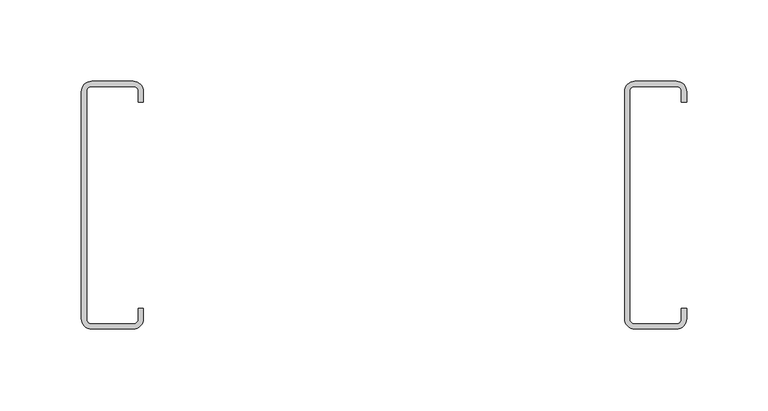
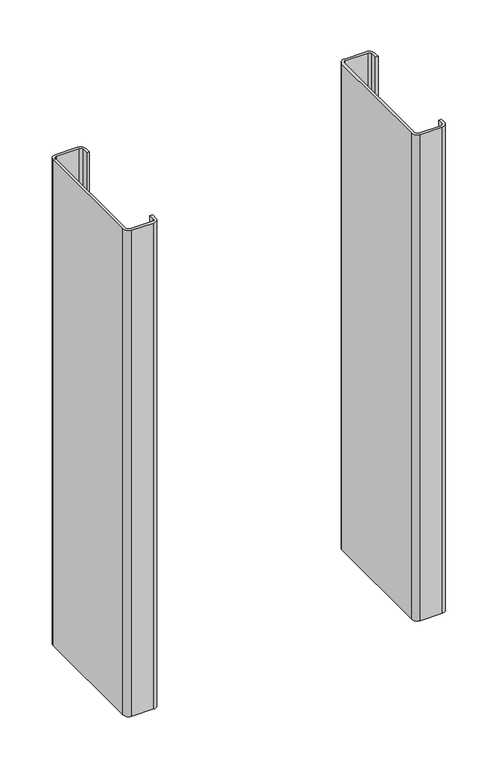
"""IFC4 building model written with IfcOpenShell, lengths in millimetres: proxy geometry, CRAi Generic Model Metal Stud Array : CRAi Generic Model Metal Stud Array."""

from ifc_helpers import new_model, si_unit, point, frame_2d, origin, origin_with_axes, place, context, project, spatial, polyline, circle_curve, trimmed, segment, composite_curve, outline, extrude, source, transform, mapped, element, save


def generic_models_61840a3c(model_context):
    return source(origin(), model_context, "Body", "SweptSolid", [
        extrude(outline(composite_curve([segment(polyline([(185.9044796, 63.5), (182.7294796, 63.5), (182.7294796, 70.2679713)]), True, "CONTINUOUS"), segment(trimmed(circle_curve(frame_2d((179.5544796, 69.85)), 3.2023936), [point((182.7294796, 70.2679713))], [point((179.9724509, 73.025))], True, "CARTESIAN"), True, "CONTINUOUS"), segment(polyline([(179.9724509, 73.025), (153.7365083, 73.025)]), True, "CONTINUOUS"), segment(trimmed(circle_curve(frame_2d((154.1544796, 69.85)), 3.2023936), [point((153.7365083, 73.025))], [point((150.9794796, 70.2679713))], True, "CARTESIAN"), True, "CONTINUOUS"), segment(polyline([(150.9794796, 70.2679713), (150.9794796, -70.2679713)]), True, "CONTINUOUS"), segment(trimmed(circle_curve(frame_2d((154.1544796, -69.85)), 3.2023936), [point((150.9794796, -70.2679713))], [point((153.7365083, -73.025))], True, "CARTESIAN"), True, "CONTINUOUS"), segment(polyline([(153.7365083, -73.025), (179.9724509, -73.025)]), True, "CONTINUOUS"), segment(trimmed(circle_curve(frame_2d((179.5544796, -69.85)), 3.2023936), [point((179.9724509, -73.025))], [point((182.7294796, -70.2679713))], True, "CARTESIAN"), True, "CONTINUOUS"), segment(polyline([(182.7294796, -70.2679713), (182.7294796, -63.5), (185.9044796, -63.5), (185.9044796, -69.85)]), True, "CONTINUOUS"), segment(trimmed(circle_curve(frame_2d((179.5544796, -69.85)), 6.35), [point((185.9044796, -69.85))], [point((179.5544796, -76.2))], False, "CARTESIAN"), True, "CONTINUOUS"), segment(polyline([(179.5544796, -76.2), (154.1544796, -76.2)]), True, "CONTINUOUS"), segment(trimmed(circle_curve(frame_2d((154.1544796, -69.85)), 6.35), [point((154.1544796, -76.2))], [point((147.8044796, -69.85))], False, "CARTESIAN"), True, "CONTINUOUS"), segment(polyline([(147.8044796, -69.85), (147.8044796, 69.85)]), True, "CONTINUOUS"), segment(trimmed(circle_curve(frame_2d((154.1544796, 69.85)), 6.35), [point((147.8044796, 69.85))], [point((154.1544796, 76.2))], False, "CARTESIAN"), True, "CONTINUOUS"), segment(polyline([(154.1544796, 76.2), (179.5544796, 76.2)]), True, "CONTINUOUS"), segment(trimmed(circle_curve(frame_2d((179.5544796, 69.85)), 6.35), [point((179.5544796, 76.2))], [point((185.9044796, 69.85))], False, "CARTESIAN"), True, "CONTINUOUS"), segment(polyline([(185.9044796, 69.85), (185.9044796, 63.5)]), True, "CONTINUOUS")], self_intersect=False)), origin_with_axes(), (0.0, 0.0, 1.0), 593.725),
        extrude(outline(composite_curve([segment(polyline([(-147.8044796, 63.5), (-150.9794796, 63.5), (-150.9794796, 70.2679713)]), True, "CONTINUOUS"), segment(trimmed(circle_curve(frame_2d((-154.1544796, 69.85)), 3.2023936), [point((-150.9794796, 70.2679713))], [point((-153.7365083, 73.025))], True, "CARTESIAN"), True, "CONTINUOUS"), segment(polyline([(-153.7365083, 73.025), (-179.9724509, 73.025)]), True, "CONTINUOUS"), segment(trimmed(circle_curve(frame_2d((-179.5544796, 69.85)), 3.2023936), [point((-179.9724509, 73.025))], [point((-182.7294796, 70.2679713))], True, "CARTESIAN"), True, "CONTINUOUS"), segment(polyline([(-182.7294796, 70.2679713), (-182.7294796, -70.2679713)]), True, "CONTINUOUS"), segment(trimmed(circle_curve(frame_2d((-179.5544796, -69.85)), 3.2023936), [point((-182.7294796, -70.2679713))], [point((-179.9724509, -73.025))], True, "CARTESIAN"), True, "CONTINUOUS"), segment(polyline([(-179.9724509, -73.025), (-153.7365083, -73.025)]), True, "CONTINUOUS"), segment(trimmed(circle_curve(frame_2d((-154.1544796, -69.85)), 3.2023936), [point((-153.7365083, -73.025))], [point((-150.9794796, -70.2679713))], True, "CARTESIAN"), True, "CONTINUOUS"), segment(polyline([(-150.9794796, -70.2679713), (-150.9794796, -63.5), (-147.8044796, -63.5), (-147.8044796, -69.85)]), True, "CONTINUOUS"), segment(trimmed(circle_curve(frame_2d((-154.1544796, -69.85)), 6.35), [point((-147.8044796, -69.85))], [point((-154.1544796, -76.2))], False, "CARTESIAN"), True, "CONTINUOUS"), segment(polyline([(-154.1544796, -76.2), (-179.5544796, -76.2)]), True, "CONTINUOUS"), segment(trimmed(circle_curve(frame_2d((-179.5544796, -69.85)), 6.35), [point((-179.5544796, -76.2))], [point((-185.9044796, -69.85))], False, "CARTESIAN"), True, "CONTINUOUS"), segment(polyline([(-185.9044796, -69.85), (-185.9044796, 69.85)]), True, "CONTINUOUS"), segment(trimmed(circle_curve(frame_2d((-179.5544796, 69.85)), 6.35), [point((-185.9044796, 69.85))], [point((-179.5544796, 76.2))], False, "CARTESIAN"), True, "CONTINUOUS"), segment(polyline([(-179.5544796, 76.2), (-154.1544796, 76.2)]), True, "CONTINUOUS"), segment(trimmed(circle_curve(frame_2d((-154.1544796, 69.85)), 6.35), [point((-154.1544796, 76.2))], [point((-147.8044796, 69.85))], False, "CARTESIAN"), True, "CONTINUOUS"), segment(polyline([(-147.8044796, 69.85), (-147.8044796, 63.5)]), True, "CONTINUOUS")], self_intersect=False)), origin_with_axes(), (0.0, 0.0, 1.0), 593.725),
    ])


if __name__ == "__main__":
    model = new_model("IFC4")
    model_context = context("Model", 3, world=origin())
    ifc_project = project(units=[si_unit("LENGTHUNIT", "METRE", prefix="MILLI")], contexts=[model_context])
    site = spatial("IfcSite", under=ifc_project)
    building = spatial("IfcBuilding", under=site)
    placement = place(None, origin())
    generic_models_shape = generic_models_61840a3c(model_context)
    element("IfcBuildingElementProxy", 1, Name="CRAi Generic Model Metal Stud Array : CRAi Generic Model Metal Stud Array", ObjectType="CRAi Generic Model Metal Stud Array : CRAi Generic Model Metal Stud Array", at=placement, inside=building, context=model_context, shape_type="MappedRepresentation", body=[
        mapped(generic_models_shape, transform((0.0, 0.0, 0.0), x_axis=(1.0, 0.0, 0.0), y_axis=(0.0, 1.0, 0.0), z_axis=(0.0, 0.0, 1.0))),
    ])
    save(model, "model.ifc")
